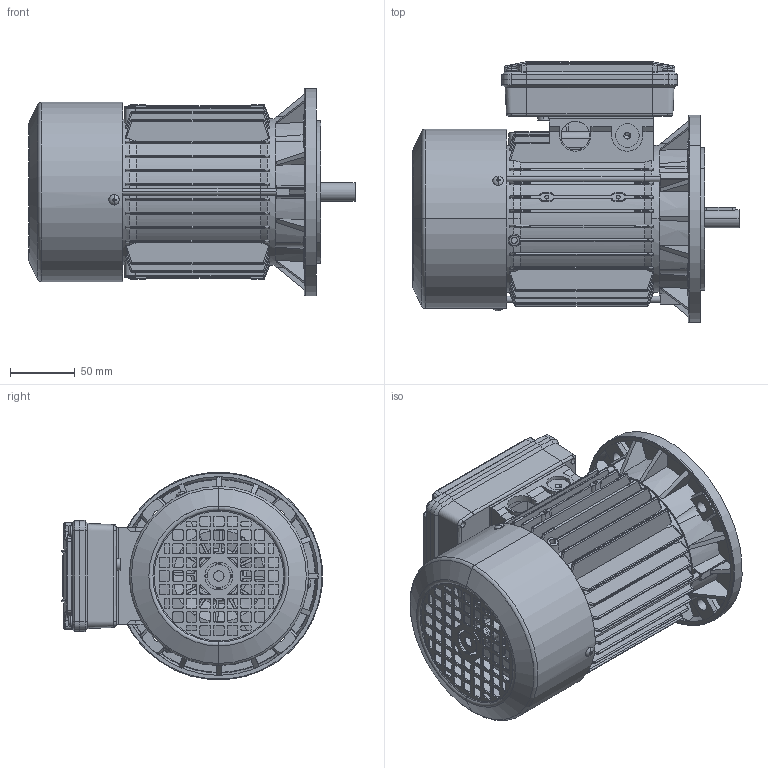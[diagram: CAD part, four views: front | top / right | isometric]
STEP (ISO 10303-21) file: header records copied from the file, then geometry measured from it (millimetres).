
FILE_DESCRIPTION (( 'STEP AP214' ), '1' );
FILE_NAME ('M24CB0010.STEP', '2019-01-07T09:12:08', ( '' ), ( '' ), 'SwSTEP 2.0', 'SolidWorks 2018', '' );
FILE_SCHEMA (( 'AUTOMOTIVE_DESIGN' ));
Length unit declared in the file: millimetre
Products named in the file (14): Vite per coperchio morsettiera; Coperchio per Scatola per Morsettiera Doppia 63-71-80; Scatola per Morsettiera Doppia 63-71-80; Vite testa rotonda M3; Cuffia SM 71; Tirante BM 71; Scudo Lato Comando B3 BA-BM 71- DBAD0094; Chiavetta 71; Albero SM 71 - DBD40096; Scudo a flangia B5 Fi 160 BA-BM 71; Carcassa 71 B5; M24CB0010; Scatola per Morsettiera Doppia 63-71-80 - Completa; Guarnizione Scatola Singola 63-71-80
Assembly tree (20 placements, depth 3):
  M24CB0010
    Carcassa 71 B5
    Scudo a flangia B5 Fi 160 BA-BM 71
    Albero SM 71 - DBD40096
    Chiavetta 71
    Scudo Lato Comando B3 BA-BM 71- DBAD0094
    Tirante BM 71  x3
    Cuffia SM 71
    Vite testa rotonda M3  x3
    Scatola per Morsettiera Doppia 63-71-80 - Completa
      Scatola per Morsettiera Doppia 63-71-80
      Coperchio per Scatola per Morsettiera Doppia 63-71-80
      Vite per coperchio morsettiera  x4
      Guarnizione Scatola Singola 63-71-80
Bounding box: 251 x 200.7 x 159.39 mm (x, y, z)
Volume: 672551.1 mm3; surface area: 488776.5 mm2
Topology: 22 solids, 22 shells, 3288 faces, 8904 edges, 5600 vertices
Faces by surface type: plane 1130, cylinder 1044, bspline 415, torus 374, cone 311, sphere 14
Entity records: 109921 total; most frequent: CARTESIAN_POINT 38075, ORIENTED_EDGE 15924, DIRECTION 13470, EDGE_CURVE 7962, AXIS2_PLACEMENT_3D 5140, VERTEX_POINT 5102, EDGE_LOOP 3256, VECTOR 3190
